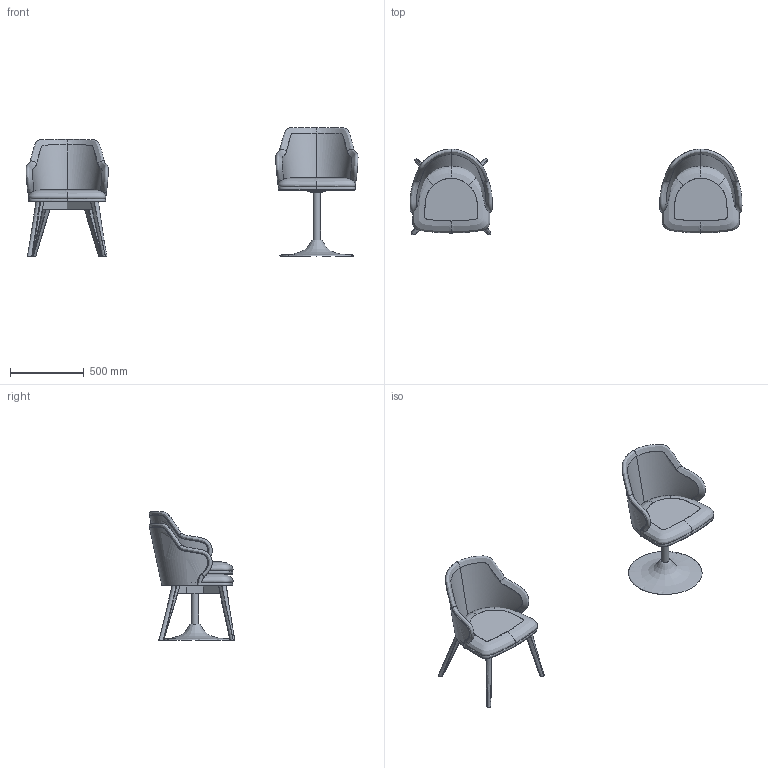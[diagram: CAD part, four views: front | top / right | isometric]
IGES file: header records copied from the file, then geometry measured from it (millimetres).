
Global section: file name: G:\MARIE\Marie_3D model.igs; native system: Rhinoceros ( Jul 17 2013 ); preprocessor: Trout Lake IGES 012 Jul 17 2013; date: 210519.204753; units: millimetre
Bounding box: 2251.52 x 581.19 x 873.68 mm (x, y, z)
Surface area: 3345347.8 mm2 (no closed solid volume)
Topology: 0 solids, 0 shells, 173 faces, 5287 edges, 5278 vertices
Faces by surface type: bspline 173
